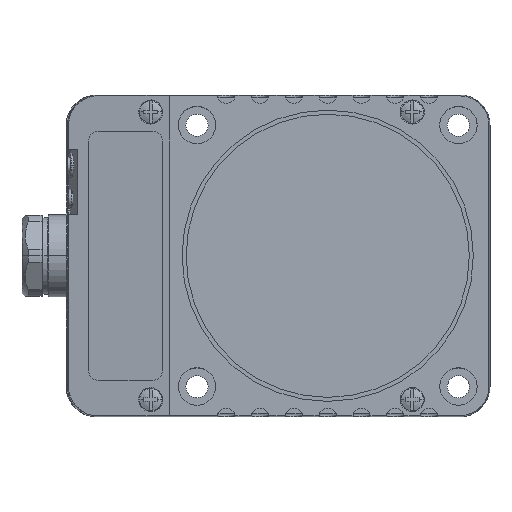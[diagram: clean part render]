
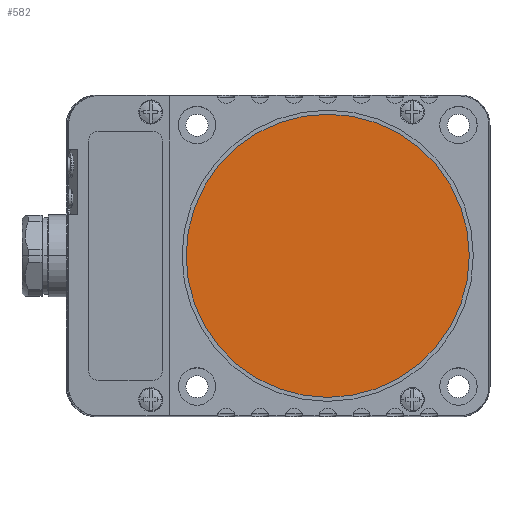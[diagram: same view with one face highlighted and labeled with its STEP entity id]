
A CAD part, top view. The second image highlights one B-rep face of the part: STEP entity #582.
In plain terms, the highlighted planar face has unit normal (0, 0, 1).
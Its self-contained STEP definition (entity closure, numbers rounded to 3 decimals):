
#582 = ADVANCED_FACE( '', ( #1662 ), #1663, .T. );
#1662 = FACE_OUTER_BOUND( '', #2749, .T. );
#1663 = PLANE( '', #2750 );
#2749 = EDGE_LOOP( '', ( #6950, #6951 ) );
#2750 = AXIS2_PLACEMENT_3D( '', #6952, #6953, #6954 );
#6950 = ORIENTED_EDGE( '', *, *, #7055, .T. );
#6951 = ORIENTED_EDGE( '', *, *, #7691, .T. );
#6952 = CARTESIAN_POINT( '', ( 0., 0., 24. ) );
#6953 = DIRECTION( '', ( 0., 0., 1. ) );
#6954 = DIRECTION( '', ( 1., 0., 0. ) );
#7055 = EDGE_CURVE( '', #8446, #8450, #8452, .T. );
#7691 = EDGE_CURVE( '', #8450, #8446, #9503, .T. );
#8446 = VERTEX_POINT( '', #10707 );
#8450 = VERTEX_POINT( '', #10712 );
#8452 = CIRCLE( '', #10715, 35.2 );
#9503 = CIRCLE( '', #12117, 35.2 );
#10707 = CARTESIAN_POINT( '', ( 100.2, 0., 24. ) );
#10712 = CARTESIAN_POINT( '', ( 29.8, 0., 24. ) );
#10715 = AXIS2_PLACEMENT_3D( '', #13827, #13828, #13829 );
#12117 = AXIS2_PLACEMENT_3D( '', #15123, #15124, #15125 );
#13827 = CARTESIAN_POINT( '', ( 65., 0., 24. ) );
#13828 = DIRECTION( '', ( 0., 0., 1. ) );
#13829 = DIRECTION( '', ( 1., 0., 0. ) );
#15123 = CARTESIAN_POINT( '', ( 65., 0., 24. ) );
#15124 = DIRECTION( '', ( 0., 0., 1. ) );
#15125 = DIRECTION( '', ( 1., 0., 0. ) );
